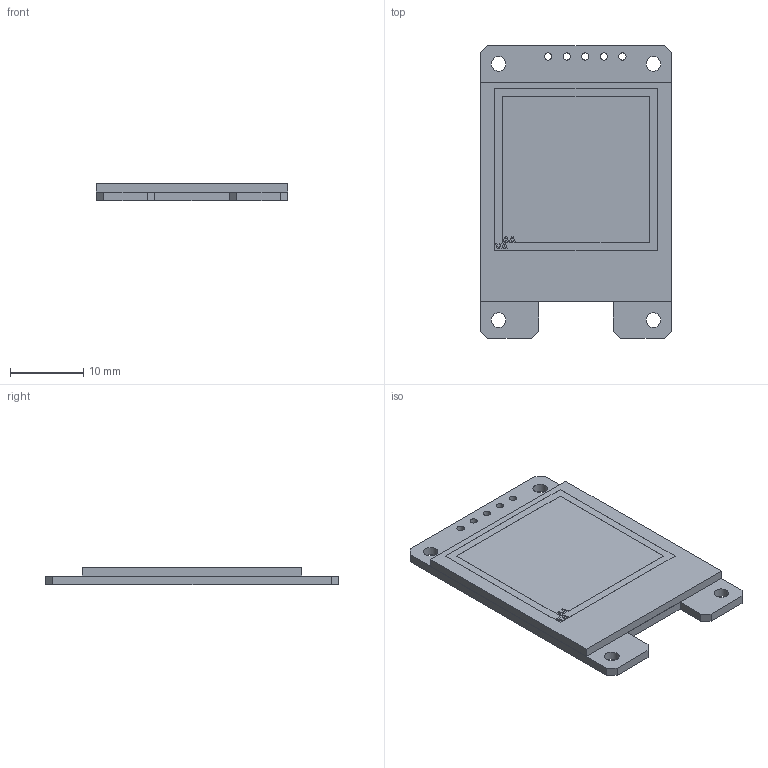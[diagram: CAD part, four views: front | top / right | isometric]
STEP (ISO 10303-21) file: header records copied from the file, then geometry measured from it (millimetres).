
FILE_DESCRIPTION(/* description */ ('STEP AP242','CAx-IF Rec.Pracs.---Representation and Presentation of Product Manufacturing Information (PMI)---4.0---2014-10-13','CAx-IF Rec.Pracs.---3D Tessellated Geometry---0.4---2014-09-14','2;1'),/* implementation_level */ '2;1');
FILE_NAME(/* name */ '65831c19a75d5439255a0701',/* time_stamp */ '2023-12-20T16:53:46Z',/* author */ (''),/* organization */ (''),/* preprocessor_version */ 'ST-DEVELOPER v19.4',/* originating_system */ ' ',/* authorisation */ ' ');
FILE_SCHEMA (('AP242_MANAGED_MODEL_BASED_3D_ENGINEERING_MIM_LF { 1 0 10303 442 1 1 4 }'));
Length unit declared in the file: metre
Products named in the file (4): Part 4; Part 1; Part 2; Part 3
Bounding box: 26.2 x 40.1 x 2.41 mm (x, y, z)
Volume: 2123.4 mm3; surface area: 4076.8 mm2
Topology: 4 solids, 4 shells, 88 faces, 240 edges, 160 vertices
Faces by surface type: plane 67, bspline 12, cylinder 9
Full cylindrical faces by diameter (mm): 1 x5, 2 x4
Entity records: 2908 total; most frequent: CARTESIAN_POINT 615, ORIENTED_EDGE 462, DIRECTION 385, EDGE_CURVE 231, LINE 189, VECTOR 189, VERTEX_POINT 160, EDGE_LOOP 129
